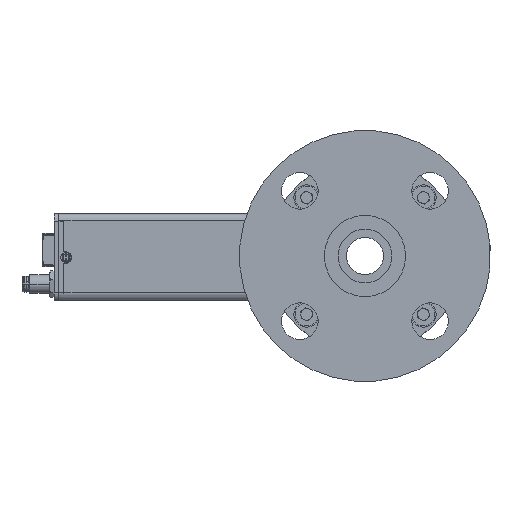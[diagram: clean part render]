
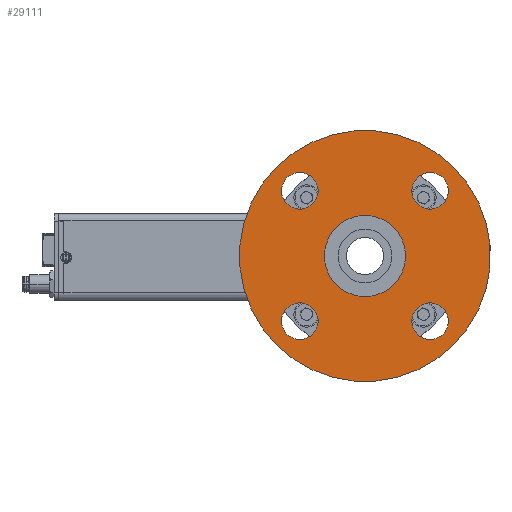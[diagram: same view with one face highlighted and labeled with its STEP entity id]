
A CAD part, left-side view. The second image highlights one B-rep face of the part: STEP entity #29111.
In plain terms, the highlighted planar face has unit normal (-1, 0, 0).
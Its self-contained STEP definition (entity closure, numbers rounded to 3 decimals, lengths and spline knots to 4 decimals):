
#1443 = CARTESIAN_POINT ( 'NONE',  ( -4.9961, 2.9722, 1.5188 ) ) ;
#1537 = ORIENTED_EDGE ( 'NONE', *, *, #17793, .T. ) ;
#1823 = CARTESIAN_POINT ( 'NONE',  ( -4.9961, 2.5727, 1.1193 ) ) ;
#2278 = CARTESIAN_POINT ( 'NONE',  ( -4.9961, 0.1473, -1.3061 ) ) ;
#2821 = DIRECTION ( 'NONE',  ( 1., 0., 0. ) ) ;
#2848 = DIRECTION ( 'NONE',  ( 0., -0.707, -0.707 ) ) ;
#3263 = ORIENTED_EDGE ( 'NONE', *, *, #48750, .T. ) ;
#3547 = DIRECTION ( 'NONE',  ( 1., 0., 0. ) ) ;
#3666 = AXIS2_PLACEMENT_3D ( 'NONE', #13632, #39656, #58895 ) ;
#3789 = DIRECTION ( 'NONE',  ( 0., -0.707, -0.707 ) ) ;
#3854 = FACE_BOUND ( 'NONE', #43883, .T. ) ;
#4209 = DIRECTION ( 'NONE',  ( 0., 0.707, 0.707 ) ) ;
#4378 = CARTESIAN_POINT ( 'NONE',  ( -4.9961, 1.4696, 0.0162 ) ) ;
#4384 = CARTESIAN_POINT ( 'NONE',  ( -4.9961, 0.5857, 1.3385 ) ) ;
#4515 = CIRCLE ( 'NONE', #23891, 0.31 ) ;
#4575 = EDGE_CURVE ( 'NONE', #8750, #54066, #44080, .T. ) ;
#5005 = CARTESIAN_POINT ( 'NONE',  ( -4.9961, -0.033, -1.4864 ) ) ;
#5166 = CARTESIAN_POINT ( 'NONE',  ( -4.9961, 2.5727, -1.0869 ) ) ;
#5255 = AXIS2_PLACEMENT_3D ( 'NONE', #55453, #9172, #3789 ) ;
#6324 = ORIENTED_EDGE ( 'NONE', *, *, #55432, .T. ) ;
#6685 = AXIS2_PLACEMENT_3D ( 'NONE', #64721, #13701, #18444 ) ;
#7540 = EDGE_CURVE ( 'NONE', #29073, #17852, #24646, .T. ) ;
#7894 = CIRCLE ( 'NONE', #32666, 0.31 ) ;
#8007 = CARTESIAN_POINT ( 'NONE',  ( -4.9961, 2.5727, 1.1193 ) ) ;
#8238 = FACE_BOUND ( 'NONE', #12860, .T. ) ;
#8664 = CIRCLE ( 'NONE', #34561, 0.687 ) ;
#8750 = VERTEX_POINT ( 'NONE', #25956 ) ;
#8849 = CIRCLE ( 'NONE', #6685, 2.125 ) ;
#9100 = ORIENTED_EDGE ( 'NONE', *, *, #58660, .T. ) ;
#9172 = DIRECTION ( 'NONE',  ( 1., 0., 0. ) ) ;
#10536 = DIRECTION ( 'NONE',  ( 0., -0.707, -0.707 ) ) ;
#11007 = AXIS2_PLACEMENT_3D ( 'NONE', #1823, #2821, #22086 ) ;
#11309 = CARTESIAN_POINT ( 'NONE',  ( -4.9961, 1.9554, 0.502 ) ) ;
#12776 = AXIS2_PLACEMENT_3D ( 'NONE', #4378, #35429, #16157 ) ;
#12860 = EDGE_LOOP ( 'NONE', ( #9100, #6324 ) ) ;
#13632 = CARTESIAN_POINT ( 'NONE',  ( -4.9961, 1.4696, 0.0162 ) ) ;
#13701 = DIRECTION ( 'NONE',  ( 1., 0., 0. ) ) ;
#14641 = CARTESIAN_POINT ( 'NONE',  ( -4.9961, 1.4696, 0.0162 ) ) ;
#15716 = CARTESIAN_POINT ( 'NONE',  ( -4.9961, 2.3535, -1.3061 ) ) ;
#16157 = DIRECTION ( 'NONE',  ( 0., -0.707, -0.707 ) ) ;
#16322 = CIRCLE ( 'NONE', #61631, 0.31 ) ;
#16616 = EDGE_LOOP ( 'NONE', ( #19356, #58778 ) ) ;
#17793 = EDGE_CURVE ( 'NONE', #54066, #8750, #16322, .T. ) ;
#17852 = VERTEX_POINT ( 'NONE', #1443 ) ;
#18028 = EDGE_LOOP ( 'NONE', ( #54365, #1537 ) ) ;
#18444 = DIRECTION ( 'NONE',  ( 0., -0.707, -0.707 ) ) ;
#18720 = FACE_BOUND ( 'NONE', #40215, .T. ) ;
#19008 = DIRECTION ( 'NONE',  ( 0., 0.707, 0.707 ) ) ;
#19356 = ORIENTED_EDGE ( 'NONE', *, *, #62345, .F. ) ;
#20369 = CARTESIAN_POINT ( 'NONE',  ( -4.9961, 2.3535, 0.9001 ) ) ;
#21934 = VERTEX_POINT ( 'NONE', #20369 ) ;
#22086 = DIRECTION ( 'NONE',  ( 0., -0.707, -0.707 ) ) ;
#23681 = ORIENTED_EDGE ( 'NONE', *, *, #47366, .T. ) ;
#23891 = AXIS2_PLACEMENT_3D ( 'NONE', #8007, #28596, #49228 ) ;
#24646 = CIRCLE ( 'NONE', #12776, 2.125 ) ;
#25011 = DIRECTION ( 'NONE',  ( 1., 0., 0. ) ) ;
#25956 = CARTESIAN_POINT ( 'NONE',  ( -4.9961, 2.7919, -0.8677 ) ) ;
#26454 = AXIS2_PLACEMENT_3D ( 'NONE', #41231, #25011, #30740 ) ;
#26549 = ORIENTED_EDGE ( 'NONE', *, *, #51417, .T. ) ;
#27678 = EDGE_CURVE ( 'NONE', #21934, #44299, #60620, .T. ) ;
#28596 = DIRECTION ( 'NONE',  ( 1., 0., 0. ) ) ;
#29073 = VERTEX_POINT ( 'NONE', #5005 ) ;
#29111 = ADVANCED_FACE ( 'NONE', ( #8238, #33572, #18720, #64993, #3854, #59233 ), #50130, .F. ) ;
#30740 = DIRECTION ( 'NONE',  ( 0., -0.707, -0.707 ) ) ;
#30768 = EDGE_LOOP ( 'NONE', ( #23681, #45944 ) ) ;
#31243 = VERTEX_POINT ( 'NONE', #46559 ) ;
#32639 = VERTEX_POINT ( 'NONE', #11309 ) ;
#32666 = AXIS2_PLACEMENT_3D ( 'NONE', #59655, #58982, #33325 ) ;
#33325 = DIRECTION ( 'NONE',  ( 0., -0.707, -0.707 ) ) ;
#33527 = CARTESIAN_POINT ( 'NONE',  ( -4.9961, 1.4696, 0.0162 ) ) ;
#33572 = FACE_OUTER_BOUND ( 'NONE', #16616, .T. ) ;
#33904 = DIRECTION ( 'NONE',  ( 1., 0., 0. ) ) ;
#34042 = CIRCLE ( 'NONE', #52358, 0.31 ) ;
#34561 = AXIS2_PLACEMENT_3D ( 'NONE', #33527, #48753, #19008 ) ;
#35000 = CARTESIAN_POINT ( 'NONE',  ( -4.9961, 0.9838, -0.4696 ) ) ;
#35429 = DIRECTION ( 'NONE',  ( 1., 0., 0. ) ) ;
#35699 = VERTEX_POINT ( 'NONE', #4384 ) ;
#38294 = CARTESIAN_POINT ( 'NONE',  ( -4.9961, 0.3665, -1.0869 ) ) ;
#39656 = DIRECTION ( 'NONE',  ( 1., 0., 0. ) ) ;
#40215 = EDGE_LOOP ( 'NONE', ( #58295, #26549 ) ) ;
#41231 = CARTESIAN_POINT ( 'NONE',  ( -4.9961, 0.3665, -1.0869 ) ) ;
#41905 = CARTESIAN_POINT ( 'NONE',  ( -4.9961, 2.7919, 1.3385 ) ) ;
#43883 = EDGE_LOOP ( 'NONE', ( #3263, #63069 ) ) ;
#44080 = CIRCLE ( 'NONE', #5255, 0.31 ) ;
#44285 = CARTESIAN_POINT ( 'NONE',  ( -4.9961, 0.1473, 0.9001 ) ) ;
#44299 = VERTEX_POINT ( 'NONE', #41905 ) ;
#44406 = CARTESIAN_POINT ( 'NONE',  ( -4.9961, 0.3665, 1.1193 ) ) ;
#44794 = VERTEX_POINT ( 'NONE', #2278 ) ;
#45012 = VERTEX_POINT ( 'NONE', #35000 ) ;
#45944 = ORIENTED_EDGE ( 'NONE', *, *, #65267, .T. ) ;
#46559 = CARTESIAN_POINT ( 'NONE',  ( -4.9961, 0.5857, -0.8677 ) ) ;
#47366 = EDGE_CURVE ( 'NONE', #35699, #59023, #7894, .T. ) ;
#48750 = EDGE_CURVE ( 'NONE', #44299, #21934, #4515, .T. ) ;
#48753 = DIRECTION ( 'NONE',  ( 1., 0., 0. ) ) ;
#49228 = DIRECTION ( 'NONE',  ( 0., -0.707, -0.707 ) ) ;
#49795 = DIRECTION ( 'NONE',  ( 1., 0., 0. ) ) ;
#50130 = PLANE ( 'NONE',  #3666 ) ;
#50447 = AXIS2_PLACEMENT_3D ( 'NONE', #14641, #3547, #4209 ) ;
#51344 = CIRCLE ( 'NONE', #58897, 0.31 ) ;
#51417 = EDGE_CURVE ( 'NONE', #44794, #31243, #34042, .T. ) ;
#52358 = AXIS2_PLACEMENT_3D ( 'NONE', #38294, #33904, #2848 ) ;
#54066 = VERTEX_POINT ( 'NONE', #15716 ) ;
#54365 = ORIENTED_EDGE ( 'NONE', *, *, #4575, .T. ) ;
#55432 = EDGE_CURVE ( 'NONE', #45012, #32639, #61202, .T. ) ;
#55453 = CARTESIAN_POINT ( 'NONE',  ( -4.9961, 2.5727, -1.0869 ) ) ;
#55521 = DIRECTION ( 'NONE',  ( 0., -0.707, -0.707 ) ) ;
#55588 = CIRCLE ( 'NONE', #26454, 0.31 ) ;
#56817 = DIRECTION ( 'NONE',  ( 1., 0., 0. ) ) ;
#58295 = ORIENTED_EDGE ( 'NONE', *, *, #64694, .T. ) ;
#58660 = EDGE_CURVE ( 'NONE', #32639, #45012, #8664, .T. ) ;
#58778 = ORIENTED_EDGE ( 'NONE', *, *, #7540, .F. ) ;
#58895 = DIRECTION ( 'NONE',  ( 0., -0.707, -0.707 ) ) ;
#58897 = AXIS2_PLACEMENT_3D ( 'NONE', #44406, #49795, #55521 ) ;
#58982 = DIRECTION ( 'NONE',  ( 1., 0., 0. ) ) ;
#59023 = VERTEX_POINT ( 'NONE', #44285 ) ;
#59233 = FACE_BOUND ( 'NONE', #18028, .T. ) ;
#59655 = CARTESIAN_POINT ( 'NONE',  ( -4.9961, 0.3665, 1.1193 ) ) ;
#60620 = CIRCLE ( 'NONE', #11007, 0.31 ) ;
#61202 = CIRCLE ( 'NONE', #50447, 0.687 ) ;
#61631 = AXIS2_PLACEMENT_3D ( 'NONE', #5166, #56817, #10536 ) ;
#62345 = EDGE_CURVE ( 'NONE', #17852, #29073, #8849, .T. ) ;
#63069 = ORIENTED_EDGE ( 'NONE', *, *, #27678, .T. ) ;
#64694 = EDGE_CURVE ( 'NONE', #31243, #44794, #55588, .T. ) ;
#64721 = CARTESIAN_POINT ( 'NONE',  ( -4.9961, 1.4696, 0.0162 ) ) ;
#64993 = FACE_BOUND ( 'NONE', #30768, .T. ) ;
#65267 = EDGE_CURVE ( 'NONE', #59023, #35699, #51344, .T. ) ;
